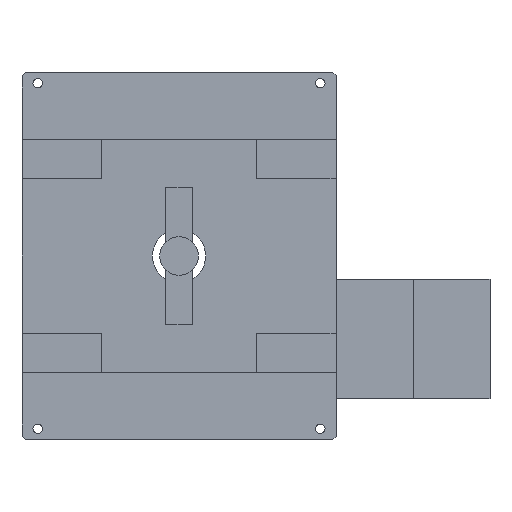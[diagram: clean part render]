
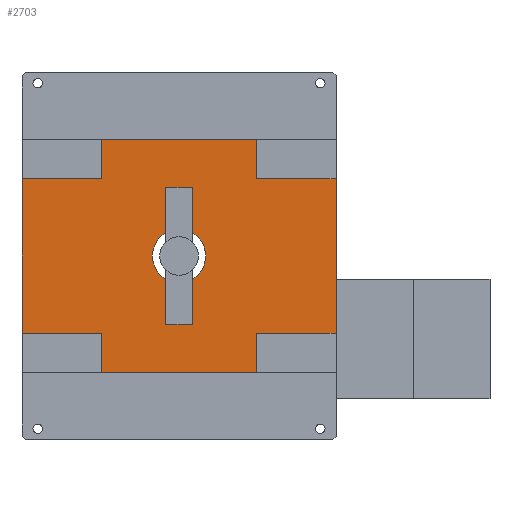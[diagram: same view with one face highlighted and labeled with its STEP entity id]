
A CAD part, front view. The second image highlights one B-rep face of the part: STEP entity #2703.
In plain terms, the highlighted planar face has unit normal (0, -1, 0).
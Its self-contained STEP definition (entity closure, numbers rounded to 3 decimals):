
#1409=DIRECTION('',(1.,0.,0.));
#1410=VECTOR('',#1409,147.6);
#1411=CARTESIAN_POINT('',(-73.8,-43.,150.));
#1412=LINE('',#1411,#1410);
#1489=DIRECTION('',(0.,0.,-1.));
#1490=VECTOR('',#1489,76.2);
#1491=CARTESIAN_POINT('',(-73.8,-43.,-73.8));
#1492=LINE('',#1491,#1490);
#1493=DIRECTION('',(1.,0.,0.));
#1494=VECTOR('',#1493,76.2);
#1495=CARTESIAN_POINT('',(-150.,-43.,-73.8));
#1496=LINE('',#1495,#1494);
#1497=DIRECTION('',(-1.,0.,0.));
#1498=VECTOR('',#1497,76.2);
#1499=CARTESIAN_POINT('',(-73.8,-43.,73.8));
#1500=LINE('',#1499,#1498);
#1501=DIRECTION('',(0.,0.,-1.));
#1502=VECTOR('',#1501,76.2);
#1503=CARTESIAN_POINT('',(-73.8,-43.,150.));
#1504=LINE('',#1503,#1502);
#1505=DIRECTION('',(0.,0.,1.));
#1506=VECTOR('',#1505,76.2);
#1507=CARTESIAN_POINT('',(73.8,-43.,73.8));
#1508=LINE('',#1507,#1506);
#1509=DIRECTION('',(-1.,0.,0.));
#1510=VECTOR('',#1509,76.2);
#1511=CARTESIAN_POINT('',(150.,-43.,73.8));
#1512=LINE('',#1511,#1510);
#1513=DIRECTION('',(1.,0.,0.));
#1514=VECTOR('',#1513,76.2);
#1515=CARTESIAN_POINT('',(73.8,-43.,-73.8));
#1516=LINE('',#1515,#1514);
#1517=DIRECTION('',(0.,0.,1.));
#1518=VECTOR('',#1517,76.2);
#1519=CARTESIAN_POINT('',(73.8,-43.,-150.));
#1520=LINE('',#1519,#1518);
#1521=CARTESIAN_POINT('',(0.,-43.,0.));
#1522=DIRECTION('',(0.,-1.,0.));
#1523=DIRECTION('',(1.,0.,0.));
#1524=AXIS2_PLACEMENT_3D('',#1521,#1522,#1523);
#1526=CARTESIAN_POINT('',(0.,-43.,0.));
#1527=DIRECTION('',(0.,-1.,0.));
#1528=DIRECTION('',(-1.,0.,0.));
#1529=AXIS2_PLACEMENT_3D('',#1526,#1527,#1528);
#1531=DIRECTION('',(-1.,0.,0.));
#1532=VECTOR('',#1531,147.6);
#1533=CARTESIAN_POINT('',(73.8,-43.,-150.));
#1534=LINE('',#1533,#1532);
#1776=DIRECTION('',(0.,0.,1.));
#1777=VECTOR('',#1776,147.6);
#1778=CARTESIAN_POINT('',(-150.,-43.,-73.8));
#1779=LINE('',#1778,#1777);
#1804=DIRECTION('',(0.,0.,-1.));
#1805=VECTOR('',#1804,147.6);
#1806=CARTESIAN_POINT('',(150.,-43.,73.8));
#1807=LINE('',#1806,#1805);
#2361=CARTESIAN_POINT('',(73.8,-43.,-150.));
#2362=CARTESIAN_POINT('',(-73.8,-43.,-150.));
#2363=VERTEX_POINT('',#2361);
#2364=VERTEX_POINT('',#2362);
#2365=CARTESIAN_POINT('',(-150.,-43.,-73.8));
#2366=CARTESIAN_POINT('',(-150.,-43.,73.8));
#2367=VERTEX_POINT('',#2365);
#2368=VERTEX_POINT('',#2366);
#2369=CARTESIAN_POINT('',(-73.8,-43.,150.));
#2370=CARTESIAN_POINT('',(73.8,-43.,150.));
#2371=VERTEX_POINT('',#2369);
#2372=VERTEX_POINT('',#2370);
#2373=CARTESIAN_POINT('',(150.,-43.,73.8));
#2374=CARTESIAN_POINT('',(150.,-43.,-73.8));
#2375=VERTEX_POINT('',#2373);
#2376=VERTEX_POINT('',#2374);
#2379=CARTESIAN_POINT('',(73.8,-43.,-73.8));
#2380=VERTEX_POINT('',#2379);
#2381=CARTESIAN_POINT('',(73.8,-43.,73.8));
#2382=VERTEX_POINT('',#2381);
#2383=CARTESIAN_POINT('',(-73.8,-43.,73.8));
#2384=VERTEX_POINT('',#2383);
#2385=CARTESIAN_POINT('',(-73.8,-43.,-73.8));
#2386=VERTEX_POINT('',#2385);
#2497=CARTESIAN_POINT('',(25.4,-43.,0.));
#2498=CARTESIAN_POINT('',(-25.4,-43.,0.));
#2499=VERTEX_POINT('',#2497);
#2500=VERTEX_POINT('',#2498);
#2667=CARTESIAN_POINT('',(0.,-43.,0.));
#2668=DIRECTION('',(0.,-1.,0.));
#2669=DIRECTION('',(1.,0.,0.));
#2670=AXIS2_PLACEMENT_3D('',#2667,#2668,#2669);
#2671=PLANE('',#2670);
#2673=ORIENTED_EDGE('',*,*,#2672,.T.);
#2675=ORIENTED_EDGE('',*,*,#2674,.F.);
#2677=ORIENTED_EDGE('',*,*,#2676,.F.);
#2679=ORIENTED_EDGE('',*,*,#2678,.T.);
#2681=ORIENTED_EDGE('',*,*,#2680,.F.);
#2683=ORIENTED_EDGE('',*,*,#2682,.F.);
#2684=ORIENTED_EDGE('',*,*,#2613,.T.);
#2686=ORIENTED_EDGE('',*,*,#2685,.F.);
#2688=ORIENTED_EDGE('',*,*,#2687,.F.);
#2690=ORIENTED_EDGE('',*,*,#2689,.T.);
#2692=ORIENTED_EDGE('',*,*,#2691,.F.);
#2694=ORIENTED_EDGE('',*,*,#2693,.F.);
#2695=EDGE_LOOP('',(#2673,#2675,#2677,#2679,#2681,#2683,#2684,#2686,#2688,#2690,
#2692,#2694));
#2696=FACE_OUTER_BOUND('',#2695,.F.);
#2698=ORIENTED_EDGE('',*,*,#2697,.T.);
#2700=ORIENTED_EDGE('',*,*,#2699,.T.);
#2701=EDGE_LOOP('',(#2698,#2700));
#2702=FACE_BOUND('',#2701,.F.);
#2703=ADVANCED_FACE('',(#2696,#2702),#2671,.T.);
#1525=CIRCLE('',#1524,25.4);
#1530=CIRCLE('',#1529,25.4);
#2613=EDGE_CURVE('',#2371,#2372,#1412,.T.);
#2672=EDGE_CURVE('',#2363,#2364,#1534,.T.);
#2674=EDGE_CURVE('',#2386,#2364,#1492,.T.);
#2676=EDGE_CURVE('',#2367,#2386,#1496,.T.);
#2678=EDGE_CURVE('',#2367,#2368,#1779,.T.);
#2680=EDGE_CURVE('',#2384,#2368,#1500,.T.);
#2682=EDGE_CURVE('',#2371,#2384,#1504,.T.);
#2685=EDGE_CURVE('',#2382,#2372,#1508,.T.);
#2687=EDGE_CURVE('',#2375,#2382,#1512,.T.);
#2689=EDGE_CURVE('',#2375,#2376,#1807,.T.);
#2691=EDGE_CURVE('',#2380,#2376,#1516,.T.);
#2693=EDGE_CURVE('',#2363,#2380,#1520,.T.);
#2697=EDGE_CURVE('',#2499,#2500,#1525,.T.);
#2699=EDGE_CURVE('',#2500,#2499,#1530,.T.);
